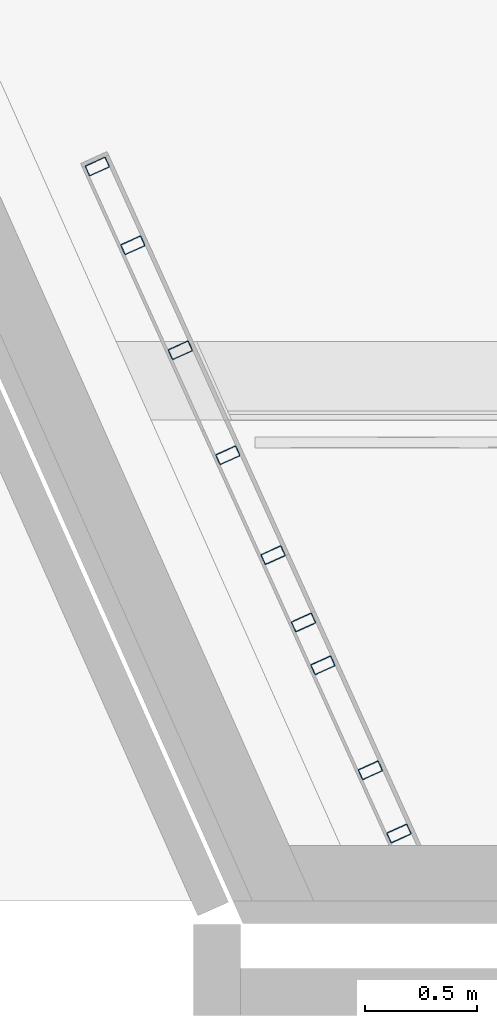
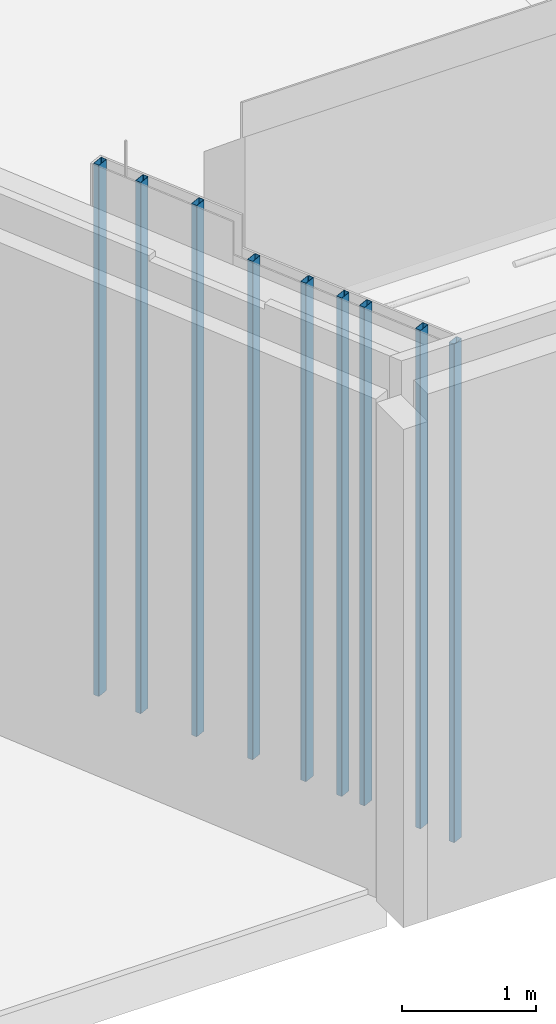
# One storey, part 1 of 19: 9 columns.
"""IFC2X3 building model written with IfcOpenShell, lengths in millimetres."""

import ifcopenshell
import ifcopenshell.guid

model = None  # the IFC model being written
_history = None  # IfcOwnerHistory: only IFC2X3 demands one
_inside = {}  # id of a spatial element -> (the spatial element, [elements in it])
_under = {}  # id of a project, library or spatial element -> (it, [spatial elements below it])
_declared = {}  # id of a project -> (the project, [libraries it declares])
_typed = {}  # id of a type object -> (the type object, [elements of that type])
_made_of = {}  # id of a material, layer set ... -> (it, [elements and type objects made of it])


def new_model(schema):
    """Start an empty IFC model of exactly this schema.

    Asked for "IFC4X3", IfcOpenShell would pick the latest addendum, in which some entities
    have other attributes; the version numbers below select the first issue.
    IFC2X3 requires an IfcOwnerHistory on every rooted entity: one is made here for all.
    """
    global model, _history
    if schema == "IFC4X3":
        model = ifcopenshell.file(schema_version=(4, 3, 0, 0))
    else:
        model = ifcopenshell.file(schema=schema)
    _inside.clear()
    _under.clear()
    _declared.clear()
    _typed.clear()
    _made_of.clear()
    _history = None
    if model.schema == "IFC2X3":
        org = make("IfcOrganization", Name="unknown")
        user = make(
            "IfcPersonAndOrganization",
            ThePerson=make("IfcPerson", FamilyName="unknown"),
            TheOrganization=org,
        )
        app = make(
            "IfcApplication",
            ApplicationDeveloper=org,
            Version="unknown",
            ApplicationFullName="unknown",
            ApplicationIdentifier="unknown",
        )
        _history = make(
            "IfcOwnerHistory",
            OwningUser=user,
            OwningApplication=app,
            ChangeAction="ADDED",
            CreationDate=0,
        )
    return model


def make(cls, **values):
    """One entity of the class cls with the attributes given. An attribute that is None is left unset."""
    return model.create_entity(
        cls, **{name: value for name, value in values.items() if value is not None}
    )


def entity(cls, *values):
    """Any entity or typed value of the class cls, its attributes in the order of the schema. None: left unset."""
    e = model.create_entity(cls)
    for i, value in enumerate(values):
        if value is not None:
            e[i] = value
    return e


def rooted(cls, **values):
    """An entity with a GlobalId (a new one), such as an element, a storey or a relation."""
    return make(cls, GlobalId=ifcopenshell.guid.new(), OwnerHistory=_history, **values)


def si_unit(unit_type, name, prefix=None):
    """IfcSIUnit, for example si_unit("LENGTHUNIT", "METRE", prefix="MILLI")."""
    return make("IfcSIUnit", UnitType=unit_type, Prefix=prefix, Name=name)


def converted_unit(unit_type, name, factor, base, dimensions=None, offset=None):
    """IfcConversionBasedUnit, such as the inch: factor (a typed value) times the base unit."""
    return make(
        "IfcConversionBasedUnit"
        if offset is None
        else "IfcConversionBasedUnitWithOffset",
        ConversionOffset=offset,
        Dimensions=None
        if dimensions is None
        else entity("IfcDimensionalExponents", *dimensions),
        UnitType=unit_type,
        Name=name,
        ConversionFactor=make(
            "IfcMeasureWithUnit", ValueComponent=factor, UnitComponent=base
        ),
    )


def derived_unit(unit_type, elements):
    """IfcDerivedUnit: a product of units, each with its exponent."""
    return make(
        "IfcDerivedUnit",
        Elements=[
            make("IfcDerivedUnitElement", Unit=unit, Exponent=power)
            for unit, power in elements
        ],
        UnitType=unit_type,
    )


def assignment(units):
    """IfcUnitAssignment: the units of a project."""
    return None if units is None else make("IfcUnitAssignment", Units=units)


def point(xyz):
    """IfcCartesianPoint."""
    return None if xyz is None else make("IfcCartesianPoint", Coordinates=xyz)


def direction(xyz):
    """IfcDirection."""
    return None if xyz is None else make("IfcDirection", DirectionRatios=xyz)


def frame(location, z_axis=None, x_axis=None):
    """IfcAxis2Placement3D, a coordinate frame: its origin and axes. An axis left out is left unset."""
    return make(
        "IfcAxis2Placement3D",
        Location=point(location),
        Axis=direction(z_axis),
        RefDirection=direction(x_axis),
    )


def frame_2d(location, x_axis=None):
    """IfcAxis2Placement2D, a coordinate frame in the plane: its origin and x axis."""
    return make(
        "IfcAxis2Placement2D", Location=point(location), RefDirection=direction(x_axis)
    )


def origin():
    """The frame at (0, 0, 0) with its axes left unset."""
    return frame((0.0, 0.0, 0.0))


def place(relative_to, where):
    """IfcLocalPlacement: puts the frame where relative to a parent placement (None: the world)."""
    return make(
        "IfcLocalPlacement", PlacementRelTo=relative_to, RelativePlacement=where
    )


def context(
    kind, dimensions, precision=None, world=None, true_north=None, identifier=None
):
    """IfcGeometricRepresentationContext, for example the 3D "Model" context."""
    return make(
        "IfcGeometricRepresentationContext",
        ContextIdentifier=identifier,
        ContextType=kind,
        CoordinateSpaceDimension=dimensions,
        Precision=precision,
        WorldCoordinateSystem=world,
        TrueNorth=true_north,
    )


def subcontext(parent, identifier, kind, view, scale=None):
    """IfcGeometricRepresentationSubContext, for example "Body" below "Model"."""
    return make(
        "IfcGeometricRepresentationSubContext",
        ContextIdentifier=identifier,
        ContextType=kind,
        ParentContext=parent,
        TargetScale=scale,
        TargetView=view,
    )


def project(units=None, contexts=None):
    """IfcProject with its units and contexts."""
    return rooted(
        "IfcProject",
        Name="project",
        RepresentationContexts=contexts,
        UnitsInContext=assignment(units),
    )


def spatial(cls, under=None, at=None, **own):
    """A site, building, storey or space (cls), placed at a placement, below another one or the project."""
    s = rooted(cls, ObjectPlacement=at, **own)
    if under is not None:
        _under.setdefault(under.id(), (under, []))[1].append(s)
    return s


def polyline(points):
    """IfcPolyline through the points."""
    return make("IfcPolyline", Points=[point(p) for p in points])


def circle_curve(where, radius):
    """IfcCircle in the frame where."""
    return make("IfcCircle", Position=where, Radius=radius)


def parameter(value):
    """IfcParameterValue: where a trimmed curve begins or ends, as a parameter of its basis curve."""
    return model.create_entity("IfcParameterValue", value)


def trimmed(basis, trim1, trim2, sense, master):
    """IfcTrimmedCurve: the piece of a basis curve between two trims."""
    return make(
        "IfcTrimmedCurve",
        BasisCurve=basis,
        Trim1=trim1,
        Trim2=trim2,
        SenseAgreement=sense,
        MasterRepresentation=master,
    )


def segment(curve, same_sense, transition):
    """IfcCompositeCurveSegment."""
    return make(
        "IfcCompositeCurveSegment",
        Transition=transition,
        SameSense=same_sense,
        ParentCurve=curve,
    )


def composite_curve(segments, self_intersect=None):
    """IfcCompositeCurve: segments joined end to end."""
    return make("IfcCompositeCurve", Segments=segments, SelfIntersect=self_intersect)


def outline(outer, holes=None, kind="AREA"):
    """IfcArbitraryClosedProfileDef: a profile drawn as a closed curve; with holes, ...WithVoids."""
    if holes is None:
        return make("IfcArbitraryClosedProfileDef", ProfileType=kind, OuterCurve=outer)
    return make(
        "IfcArbitraryProfileDefWithVoids",
        ProfileType=kind,
        OuterCurve=outer,
        InnerCurves=holes,
    )


def extrude(swept, where, along, depth):
    """IfcExtrudedAreaSolid: the profile swept, set in the frame where, extruded along a direction by depth."""
    return make(
        "IfcExtrudedAreaSolid",
        SweptArea=swept,
        Position=where,
        ExtrudedDirection=direction(along),
        Depth=depth,
    )


def shape(context_of_items, identifier, shape_type, items):
    """IfcShapeRepresentation: the items that make up one representation, for example the "Body"."""
    return make(
        "IfcShapeRepresentation",
        ContextOfItems=context_of_items,
        RepresentationIdentifier=identifier,
        RepresentationType=shape_type,
        Items=items,
    )


def source(mapping_origin, context_of_items, identifier, shape_type, items):
    """IfcRepresentationMap: a shape defined once, which mapped items show again and again."""
    return make(
        "IfcRepresentationMap",
        MappingOrigin=mapping_origin,
        MappedRepresentation=shape(context_of_items, identifier, shape_type, items),
    )


def transform(
    local_origin,
    x_axis=None,
    y_axis=None,
    z_axis=None,
    scale=None,
    scale2=None,
    scale3=None,
    uniform=True,
):
    """IfcCartesianTransformationOperator3D, or its non-uniform kind. x_axis, y_axis, z_axis: its Axis1, 2, 3."""
    if uniform:
        return make(
            "IfcCartesianTransformationOperator3D",
            Axis1=direction(x_axis),
            Axis2=direction(y_axis),
            LocalOrigin=point(local_origin),
            Scale=scale,
            Axis3=direction(z_axis),
        )
    return make(
        "IfcCartesianTransformationOperator3DnonUniform",
        Axis1=direction(x_axis),
        Axis2=direction(y_axis),
        LocalOrigin=point(local_origin),
        Scale=scale,
        Axis3=direction(z_axis),
        Scale2=scale2,
        Scale3=scale3,
    )


def mapped(mapping_source, mapping_target):
    """IfcMappedItem: shows the shape of a source again, moved by a transform."""
    return make(
        "IfcMappedItem", MappingSource=mapping_source, MappingTarget=mapping_target
    )


def material(Name=None, Category=None):
    """IfcMaterial."""
    return make("IfcMaterial", Name=Name, Category=Category)


def made_of(thing, what):
    """Note that an element or type object is made of a material, layer set ...; save() writes the relation."""
    if what is not None:
        _made_of.setdefault(what.id(), (what, []))[1].append(thing)
    return thing


def type_object(cls, material=None, **own):
    """A type object (cls), such as IfcWallType, which elements share."""
    return made_of(rooted(cls, **own), material)


def type_shapes(of_type, sources):
    """Give a type object the sources (RepresentationMaps) that its elements show as mapped items."""
    of_type.RepresentationMaps = sources


def element(
    cls,
    number,
    at=None,
    inside=None,
    cuts=None,
    type_object=None,
    material=None,
    context=None,
    identifier="Body",
    shape_type=None,
    held_by="IfcProductDefinitionShape",
    body=None,
    shapes=None,
    **own,
):
    """One element of the class cls, such as IfcWall. Its Tag is "e" and its number.

    at: its placement. inside: the storey or other place that contains it. cuts: it is an
    opening in that element (IfcRelVoidsElement). A single representation is given by context,
    identifier, shape_type and body (its items); several are given by shapes. held_by: the class
    of the entity that holds the representations. save() writes the other relations.
    """
    e = rooted(cls, Tag="e%d" % number, ObjectPlacement=at, **own)
    if body is not None:
        shapes = [shape(context, identifier, shape_type, body)]
    if shapes is not None:
        e.Representation = make(held_by, Representations=shapes)
    if inside is not None:
        _inside.setdefault(inside.id(), (inside, []))[1].append(e)
    if cuts is not None:
        rooted(
            "IfcRelVoidsElement", RelatingBuildingElement=cuts, RelatedOpeningElement=e
        )
    if type_object is not None:
        _typed.setdefault(type_object.id(), (type_object, []))[1].append(e)
    return made_of(e, material)


def aggregate(whole, parts):
    """IfcRelAggregates: a whole, such as a stair, and the parts it consists of."""
    return rooted("IfcRelAggregates", RelatingObject=whole, RelatedObjects=parts)


def save(model, path):
    """Write the relations noted so far, then the file.

    IfcRelAggregates (storeys below a building ...), IfcRelContainedInSpatialStructure (elements
    in a storey), IfcRelDefinesByType, IfcRelAssociatesMaterial and IfcRelDeclares: one each for
    every whole, place, type object, material and project.
    """
    for whole, parts in _under.values():
        aggregate(whole, parts)
    for where, things in _inside.values():
        rooted(
            "IfcRelContainedInSpatialStructure",
            RelatedElements=things,
            RelatingStructure=where,
        )
    for kind, things in _typed.values():
        rooted("IfcRelDefinesByType", RelatedObjects=things, RelatingType=kind)
    for what, things in _made_of.values():
        rooted("IfcRelAssociatesMaterial", RelatedObjects=things, RelatingMaterial=what)
    for by, libraries in _declared.values():
        rooted("IfcRelDeclares", RelatingContext=by, RelatedDefinitions=libraries)
    model.write(path)


model = new_model("IFC2X3")

# Units and contexts
model_context = context("Model", 3, precision=0.01, world=origin(), true_north=direction((6.123031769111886e-17, 1.0)))
body_context = subcontext(model_context, "Body", "Model", "MODEL_VIEW")
ifc_project = project(units=[si_unit("LENGTHUNIT", "METRE", prefix="MILLI"), si_unit("AREAUNIT", "SQUARE_METRE"), si_unit("VOLUMEUNIT", "CUBIC_METRE"), converted_unit("PLANEANGLEUNIT", "DEGREE", entity("IfcRatioMeasure", 0.017453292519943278), si_unit("PLANEANGLEUNIT", "RADIAN"), dimensions=[0, 0, 0, 0, 0, 0, 0]), si_unit("MASSUNIT", "GRAM", prefix="KILO"), derived_unit("MASSDENSITYUNIT", [(si_unit("MASSUNIT", "GRAM", prefix="KILO"), 1), (si_unit("LENGTHUNIT", "METRE"), -3)]), derived_unit("MOMENTOFINERTIAUNIT", [(si_unit("LENGTHUNIT", "METRE"), 4)]), si_unit("TIMEUNIT", "SECOND"), si_unit("FREQUENCYUNIT", "HERTZ"), si_unit("THERMODYNAMICTEMPERATUREUNIT", "DEGREE_CELSIUS"), derived_unit("THERMALTRANSMITTANCEUNIT", [(si_unit("MASSUNIT", "GRAM", prefix="KILO"), 1), (si_unit("THERMODYNAMICTEMPERATUREUNIT", "KELVIN"), -1), (si_unit("TIMEUNIT", "SECOND"), -3)]), derived_unit("VOLUMETRICFLOWRATEUNIT", [(si_unit("LENGTHUNIT", "METRE"), 3), (si_unit("TIMEUNIT", "SECOND"), -1)]), derived_unit("MASSFLOWRATEUNIT", [(si_unit("MASSUNIT", "GRAM", prefix="KILO"), 1), (si_unit("TIMEUNIT", "SECOND"), -1)]), derived_unit("ROTATIONALFREQUENCYUNIT", [(si_unit("TIMEUNIT", "SECOND"), -1)]), si_unit("ELECTRICCURRENTUNIT", "AMPERE"), si_unit("ELECTRICVOLTAGEUNIT", "VOLT"), si_unit("POWERUNIT", "WATT"), si_unit("FORCEUNIT", "NEWTON", prefix="KILO"), si_unit("ILLUMINANCEUNIT", "LUX"), si_unit("LUMINOUSFLUXUNIT", "LUMEN"), si_unit("LUMINOUSINTENSITYUNIT", "CANDELA"), derived_unit("USERDEFINED", [(si_unit("MASSUNIT", "GRAM", prefix="KILO"), -1), (si_unit("LENGTHUNIT", "METRE"), -2), (si_unit("TIMEUNIT", "SECOND"), 3), (si_unit("LUMINOUSFLUXUNIT", "LUMEN"), 1)]), derived_unit("SOUNDPOWERUNIT", [(si_unit("MASSUNIT", "GRAM", prefix="KILO"), 1), (si_unit("LENGTHUNIT", "METRE"), 2), (si_unit("TIMEUNIT", "SECOND"), -3)]), derived_unit("SOUNDPRESSUREUNIT", [(si_unit("MASSUNIT", "GRAM", prefix="KILO"), 1), (si_unit("LENGTHUNIT", "METRE"), -1), (si_unit("TIMEUNIT", "SECOND"), -2)]), derived_unit("LINEARVELOCITYUNIT", [(si_unit("LENGTHUNIT", "METRE"), 1), (si_unit("TIMEUNIT", "SECOND"), -1)]), si_unit("PRESSUREUNIT", "PASCAL"), derived_unit("USERDEFINED", [(si_unit("LENGTHUNIT", "METRE"), -2), (si_unit("MASSUNIT", "GRAM", prefix="KILO"), 1), (si_unit("TIMEUNIT", "SECOND"), -2)]), derived_unit("LINEARFORCEUNIT", [(si_unit("MASSUNIT", "GRAM", prefix="KILO"), 1), (si_unit("LENGTHUNIT", "METRE"), 1), (si_unit("TIMEUNIT", "SECOND"), -2), (si_unit("LENGTHUNIT", "METRE"), -1)]), derived_unit("PLANARFORCEUNIT", [(si_unit("MASSUNIT", "GRAM", prefix="KILO"), 1), (si_unit("LENGTHUNIT", "METRE"), 1), (si_unit("TIMEUNIT", "SECOND"), -2), (si_unit("LENGTHUNIT", "METRE"), -2)])], contexts=[model_context])

# Site, building, storey
site_placement = place(None, frame((-10000.0, -10000.0, 0.0)))
site = spatial("IfcSite", under=ifc_project, at=site_placement, Name="Default", CompositionType="ELEMENT")
building_placement = place(site_placement, origin())
building = spatial("IfcBuilding", under=site, at=building_placement, CompositionType="ELEMENT")
storey_placement = place(building_placement, frame((0.0, 0.0, 4200.0)))
storey = spatial("IfcBuildingStorey", under=building, at=storey_placement, Name="01 1e verdieping", CompositionType="ELEMENT", Elevation=4200.000000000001)

# Columns
ifc_material = material(Name="Metal - Steel - 345 MPa")
column_type_1 = type_object("IfcColumnType", Name="Kokerprofielen_ITX(c):K100/50/2.5", PredefinedType="COLUMN", material=ifc_material)
shared_shape_1 = source(origin(), body_context, "Body", "SweptSolid", [
    extrude(outline(composite_curve([segment(trimmed(circle_curve(frame_2d((20.0, -45.0), x_axis=(1.0, 0.0)), 4.999999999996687), [parameter(270.0000000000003)], [parameter(4.0711099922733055e-13)], True, "PARAMETER"), True, "CONTINUOUS"), segment(polyline([(25.0, -45.0), (25.0, 45.0)]), True, "CONTINUOUS"), segment(trimmed(circle_curve(frame_2d((20.0, 45.0), x_axis=(1.0, 0.0)), 5.000000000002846), [parameter(4.0711099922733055e-13)], [parameter(90.00000000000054)], True, "PARAMETER"), True, "CONTINUOUS"), segment(polyline([(20.0, 50.0), (-20.0, 50.0)]), True, "CONTINUOUS"), segment(trimmed(circle_curve(frame_2d((-20.0, 45.0), x_axis=(1.0, 0.0)), 4.999999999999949), [parameter(90.00000000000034)], [parameter(179.99999999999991)], True, "PARAMETER"), True, "CONTINUOUS"), segment(polyline([(-25.0, 45.0), (-25.0, -45.0)]), True, "CONTINUOUS"), segment(trimmed(circle_curve(frame_2d((-20.0, -45.0), x_axis=(1.0, 0.0)), 4.99999999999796), [parameter(179.99999999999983)], [parameter(269.9999999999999)], True, "PARAMETER"), True, "CONTINUOUS"), segment(polyline([(-20.0, -50.0), (20.0, -50.0)]), True, "CONTINUOUS")], self_intersect=False), holes=[composite_curve([segment(polyline([(20.0, -47.4999999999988), (-20.0, -47.4999999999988)]), True, "CONTINUOUS"), segment(trimmed(circle_curve(frame_2d((-20.0, -45.0), x_axis=(1.0, 0.0)), 2.500000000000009), [parameter(180.00000000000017)], [parameter(269.9999999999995)], True, "PARAMETER"), False, "CONTINUOUS"), segment(polyline([(-22.500000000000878, -45.0), (-22.500000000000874, 45.0)]), True, "CONTINUOUS"), segment(trimmed(circle_curve(frame_2d((-20.0, 45.0), x_axis=(1.0, 0.0)), 2.5000000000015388), [parameter(89.99999999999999)], [parameter(179.9999999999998)], True, "PARAMETER"), False, "CONTINUOUS"), segment(polyline([(-20.0, 47.50000000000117), (20.0, 47.50000000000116)]), True, "CONTINUOUS"), segment(trimmed(circle_curve(frame_2d((20.0, 45.0), x_axis=(1.0, 0.0)), 2.4999999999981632), [parameter(0.0)], [parameter(90.00000000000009)], True, "PARAMETER"), False, "CONTINUOUS"), segment(polyline([(22.499999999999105, 45.0), (22.499999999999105, -45.0)]), True, "CONTINUOUS"), segment(trimmed(circle_curve(frame_2d((20.0, -45.0), x_axis=(1.0, 0.0)), 2.49999999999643), [parameter(270.0000000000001)], [parameter(0.0)], True, "PARAMETER"), False, "CONTINUOUS")], self_intersect=False)]), frame((0.0, 0.0, 4150.0)), (0.0, 0.0, 1.0), 4850.0),
])
type_shapes(column_type_1, [shared_shape_1])
column_1_placement = place(storey_placement, frame((28798.69622552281, 30336.873582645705, -4200.0), z_axis=(0.0, 0.0, 1.0), x_axis=(0.41221137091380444, -0.9110882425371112, 0.0)))
element("IfcColumn", 1, at=column_1_placement, inside=storey, type_object=column_type_1, material=ifc_material, Name="Kokerprofielen_ITX(c):K100/50/2.5", ObjectType="Kokerprofielen_ITX(c):K100/50/2.5", context=body_context, shape_type="MappedRepresentation", body=[
    mapped(shared_shape_1, transform((0.0, 0.0, 0.0), scale=1.0)),
])
column_type_2 = type_object("IfcColumnType", Name="Kokerprofielen_ITX(c):K100/50/2.5", PredefinedType="COLUMN", material=ifc_material)
shared_shape_2 = source(origin(), body_context, "Body", "SweptSolid", [
    extrude(outline(composite_curve([segment(trimmed(circle_curve(frame_2d((20.0, -45.0), x_axis=(1.0, 0.0)), 4.999999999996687), [parameter(270.0000000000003)], [parameter(4.0711099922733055e-13)], True, "PARAMETER"), True, "CONTINUOUS"), segment(polyline([(25.0, -45.0), (25.0, 45.0)]), True, "CONTINUOUS"), segment(trimmed(circle_curve(frame_2d((20.0, 45.0), x_axis=(1.0, 0.0)), 5.000000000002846), [parameter(4.0711099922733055e-13)], [parameter(90.00000000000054)], True, "PARAMETER"), True, "CONTINUOUS"), segment(polyline([(20.0, 50.0), (-20.0, 50.0)]), True, "CONTINUOUS"), segment(trimmed(circle_curve(frame_2d((-20.0, 45.0), x_axis=(1.0, 0.0)), 4.999999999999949), [parameter(90.00000000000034)], [parameter(179.99999999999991)], True, "PARAMETER"), True, "CONTINUOUS"), segment(polyline([(-25.0, 45.0), (-25.0, -45.0)]), True, "CONTINUOUS"), segment(trimmed(circle_curve(frame_2d((-20.0, -45.0), x_axis=(1.0, 0.0)), 4.99999999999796), [parameter(179.99999999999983)], [parameter(269.9999999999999)], True, "PARAMETER"), True, "CONTINUOUS"), segment(polyline([(-20.0, -50.0), (20.0, -50.0)]), True, "CONTINUOUS")], self_intersect=False), holes=[composite_curve([segment(polyline([(20.0, -47.4999999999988), (-20.0, -47.4999999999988)]), True, "CONTINUOUS"), segment(trimmed(circle_curve(frame_2d((-20.0, -45.0), x_axis=(1.0, 0.0)), 2.500000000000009), [parameter(180.00000000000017)], [parameter(269.9999999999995)], True, "PARAMETER"), False, "CONTINUOUS"), segment(polyline([(-22.500000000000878, -45.0), (-22.500000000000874, 45.0)]), True, "CONTINUOUS"), segment(trimmed(circle_curve(frame_2d((-20.0, 45.0), x_axis=(1.0, 0.0)), 2.5000000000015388), [parameter(89.99999999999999)], [parameter(179.9999999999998)], True, "PARAMETER"), False, "CONTINUOUS"), segment(polyline([(-20.0, 47.50000000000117), (20.0, 47.50000000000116)]), True, "CONTINUOUS"), segment(trimmed(circle_curve(frame_2d((20.0, 45.0), x_axis=(1.0, 0.0)), 2.4999999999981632), [parameter(0.0)], [parameter(90.00000000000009)], True, "PARAMETER"), False, "CONTINUOUS"), segment(polyline([(22.499999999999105, 45.0), (22.499999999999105, -45.0)]), True, "CONTINUOUS"), segment(trimmed(circle_curve(frame_2d((20.0, -45.0), x_axis=(1.0, 0.0)), 2.49999999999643), [parameter(270.0000000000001)], [parameter(0.0)], True, "PARAMETER"), False, "CONTINUOUS")], self_intersect=False)]), frame((0.0, 0.0, 4150.0)), (0.0, 0.0, 1.0), 4549.999999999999),
])
type_shapes(column_type_2, [shared_shape_2])
for number, where, z_axis, x_axis in (
    (2, (29010.95386660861, 29867.732130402, -4200.0), (0.0, 0.0, 1.0), (0.41221137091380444, -0.9110882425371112, 0.0)),
    (3, (29212.96865329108, 29421.22989889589, -4200.0), (0.0, 0.0, 1.0), (0.41221137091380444, -0.9110882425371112, 0.0)),
    (4, (29348.998405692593, 29120.57077885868, -4200.0), (0.0, 0.0, 1.0), (0.41221137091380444, -0.9110882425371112, 0.0)),
    (5, (29435.562793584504, 28929.242247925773, -4200.0), (0.0, 0.0, 1.0), (0.41221137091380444, -0.9110882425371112, 0.0)),
    (6, (29647.851649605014, 28460.031803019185, -4200.0), (0.0, 0.0, 1.0), (0.41221137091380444, -0.9110882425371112, 0.0)),
    (7, (29775.637174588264, 28177.594447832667, -4200.0), (0.0, 0.0, 1.0), (0.41221137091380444, -0.9110882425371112, 0.0)),
):
    element("IfcColumn", number, at=place(storey_placement, frame(where, z_axis=z_axis, x_axis=x_axis)), inside=storey, type_object=column_type_2, material=ifc_material, Name="Kokerprofielen_ITX(c):K100/50/2.5", ObjectType="Kokerprofielen_ITX(c):K100/50/2.5", context=body_context, shape_type="MappedRepresentation", body=[
        mapped(shared_shape_2, transform((0.0, 0.0, 0.0), scale=1.0)),
    ])
column_type_3 = type_object("IfcColumnType", Name="Kokerprofielen_ITX(c):K100/50/2.5", PredefinedType="COLUMN", material=ifc_material)
shared_shape_3 = source(origin(), body_context, "Body", "SweptSolid", [
    extrude(outline(composite_curve([segment(trimmed(circle_curve(frame_2d((20.0, -45.0), x_axis=(1.0, 0.0)), 4.999999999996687), [parameter(270.0000000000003)], [parameter(4.0711099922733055e-13)], True, "PARAMETER"), True, "CONTINUOUS"), segment(polyline([(25.0, -45.0), (25.0, 45.0)]), True, "CONTINUOUS"), segment(trimmed(circle_curve(frame_2d((20.0, 45.0), x_axis=(1.0, 0.0)), 5.000000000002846), [parameter(4.0711099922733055e-13)], [parameter(90.00000000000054)], True, "PARAMETER"), True, "CONTINUOUS"), segment(polyline([(20.0, 50.0), (-20.0, 50.0)]), True, "CONTINUOUS"), segment(trimmed(circle_curve(frame_2d((-20.0, 45.0), x_axis=(1.0, 0.0)), 4.999999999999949), [parameter(90.00000000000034)], [parameter(179.99999999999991)], True, "PARAMETER"), True, "CONTINUOUS"), segment(polyline([(-25.0, 45.0), (-25.0, -45.0)]), True, "CONTINUOUS"), segment(trimmed(circle_curve(frame_2d((-20.0, -45.0), x_axis=(1.0, 0.0)), 4.99999999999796), [parameter(179.99999999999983)], [parameter(269.9999999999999)], True, "PARAMETER"), True, "CONTINUOUS"), segment(polyline([(-20.0, -50.0), (20.0, -50.0)]), True, "CONTINUOUS")], self_intersect=False), holes=[composite_curve([segment(polyline([(20.0, -47.4999999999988), (-20.0, -47.4999999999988)]), True, "CONTINUOUS"), segment(trimmed(circle_curve(frame_2d((-20.0, -45.0), x_axis=(1.0, 0.0)), 2.500000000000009), [parameter(180.00000000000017)], [parameter(269.9999999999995)], True, "PARAMETER"), False, "CONTINUOUS"), segment(polyline([(-22.500000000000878, -45.0), (-22.500000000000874, 45.0)]), True, "CONTINUOUS"), segment(trimmed(circle_curve(frame_2d((-20.0, 45.0), x_axis=(1.0, 0.0)), 2.5000000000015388), [parameter(89.99999999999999)], [parameter(179.9999999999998)], True, "PARAMETER"), False, "CONTINUOUS"), segment(polyline([(-20.0, 47.50000000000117), (20.0, 47.50000000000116)]), True, "CONTINUOUS"), segment(trimmed(circle_curve(frame_2d((20.0, 45.0), x_axis=(1.0, 0.0)), 2.4999999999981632), [parameter(0.0)], [parameter(90.00000000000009)], True, "PARAMETER"), False, "CONTINUOUS"), segment(polyline([(22.499999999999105, 45.0), (22.499999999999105, -45.0)]), True, "CONTINUOUS"), segment(trimmed(circle_curve(frame_2d((20.0, -45.0), x_axis=(1.0, 0.0)), 2.49999999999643), [parameter(270.0000000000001)], [parameter(0.0)], True, "PARAMETER"), False, "CONTINUOUS")], self_intersect=False)]), frame((0.0, 0.0, 4150.0)), (0.0, 0.0, 1.0), 4850.0),
])
type_shapes(column_type_3, [shared_shape_3])
column_2_placement = place(storey_placement, frame((28586.43858443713, 30806.015034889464, -4200.0), z_axis=(0.0, 0.0, 1.0), x_axis=(0.41221137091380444, -0.9110882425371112, 0.0)))
element("IfcColumn", 8, at=column_2_placement, inside=storey, type_object=column_type_3, material=ifc_material, Name="Kokerprofielen_ITX(c):K100/50/2.5", ObjectType="Kokerprofielen_ITX(c):K100/50/2.5", context=body_context, shape_type="MappedRepresentation", body=[
    mapped(shared_shape_3, transform((0.0, 0.0, 0.0), scale=1.0)),
])
column_type_4 = type_object("IfcColumnType", Name="Kokerprofielen_ITX(c):K100/50/2.5", PredefinedType="COLUMN", material=ifc_material)
shared_shape_4 = source(origin(), body_context, "Body", "SweptSolid", [
    extrude(outline(composite_curve([segment(trimmed(circle_curve(frame_2d((20.0, -45.0), x_axis=(1.0, 0.0)), 4.999999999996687), [parameter(270.0000000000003)], [parameter(4.0711099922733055e-13)], True, "PARAMETER"), True, "CONTINUOUS"), segment(polyline([(25.0, -45.0), (25.0, 45.0)]), True, "CONTINUOUS"), segment(trimmed(circle_curve(frame_2d((20.0, 45.0), x_axis=(1.0, 0.0)), 5.000000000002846), [parameter(4.0711099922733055e-13)], [parameter(90.00000000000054)], True, "PARAMETER"), True, "CONTINUOUS"), segment(polyline([(20.0, 50.0), (-20.0, 50.0)]), True, "CONTINUOUS"), segment(trimmed(circle_curve(frame_2d((-20.0, 45.0), x_axis=(1.0, 0.0)), 4.999999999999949), [parameter(90.00000000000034)], [parameter(179.99999999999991)], True, "PARAMETER"), True, "CONTINUOUS"), segment(polyline([(-25.0, 45.0), (-25.0, -45.0)]), True, "CONTINUOUS"), segment(trimmed(circle_curve(frame_2d((-20.0, -45.0), x_axis=(1.0, 0.0)), 4.99999999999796), [parameter(179.99999999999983)], [parameter(269.9999999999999)], True, "PARAMETER"), True, "CONTINUOUS"), segment(polyline([(-20.0, -50.0), (20.0, -50.0)]), True, "CONTINUOUS")], self_intersect=False), holes=[composite_curve([segment(polyline([(20.0, -47.4999999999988), (-20.0, -47.4999999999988)]), True, "CONTINUOUS"), segment(trimmed(circle_curve(frame_2d((-20.0, -45.0), x_axis=(1.0, 0.0)), 2.500000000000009), [parameter(180.00000000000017)], [parameter(269.9999999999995)], True, "PARAMETER"), False, "CONTINUOUS"), segment(polyline([(-22.500000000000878, -45.0), (-22.500000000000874, 45.0)]), True, "CONTINUOUS"), segment(trimmed(circle_curve(frame_2d((-20.0, 45.0), x_axis=(1.0, 0.0)), 2.5000000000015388), [parameter(89.99999999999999)], [parameter(179.9999999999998)], True, "PARAMETER"), False, "CONTINUOUS"), segment(polyline([(-20.0, 47.50000000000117), (20.0, 47.50000000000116)]), True, "CONTINUOUS"), segment(trimmed(circle_curve(frame_2d((20.0, 45.0), x_axis=(1.0, 0.0)), 2.4999999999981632), [parameter(0.0)], [parameter(90.00000000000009)], True, "PARAMETER"), False, "CONTINUOUS"), segment(polyline([(22.499999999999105, 45.0), (22.499999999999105, -45.0)]), True, "CONTINUOUS"), segment(trimmed(circle_curve(frame_2d((20.0, -45.0), x_axis=(1.0, 0.0)), 2.49999999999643), [parameter(270.0000000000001)], [parameter(0.0)], True, "PARAMETER"), False, "CONTINUOUS")], self_intersect=False)]), frame((0.0, 0.0, 4150.0)), (0.0, 0.0, 1.0), 4850.0),
])
type_shapes(column_type_4, [shared_shape_4])
column_3_placement = place(storey_placement, frame((28427.736320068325, 31157.99893773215, -4200.0), z_axis=(0.0, 0.0, 1.0), x_axis=(0.41221137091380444, -0.9110882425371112, 0.0)))
element("IfcColumn", 9, at=column_3_placement, inside=storey, type_object=column_type_4, material=ifc_material, Name="Kokerprofielen_ITX(c):K100/50/2.5", ObjectType="Kokerprofielen_ITX(c):K100/50/2.5", context=body_context, shape_type="MappedRepresentation", body=[
    mapped(shared_shape_4, transform((0.0, 0.0, 0.0), scale=1.0)),
])

save(model, "model.ifc")
